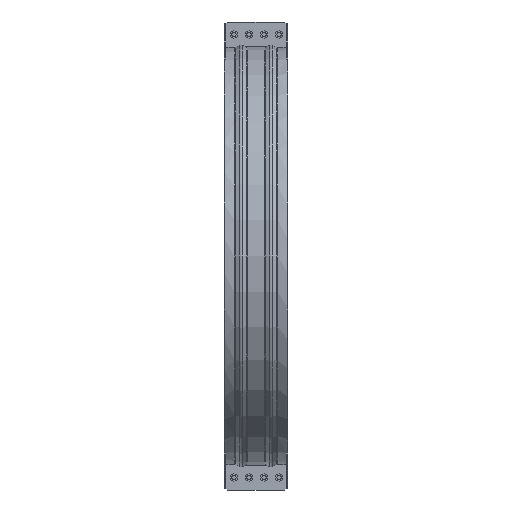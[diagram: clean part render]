
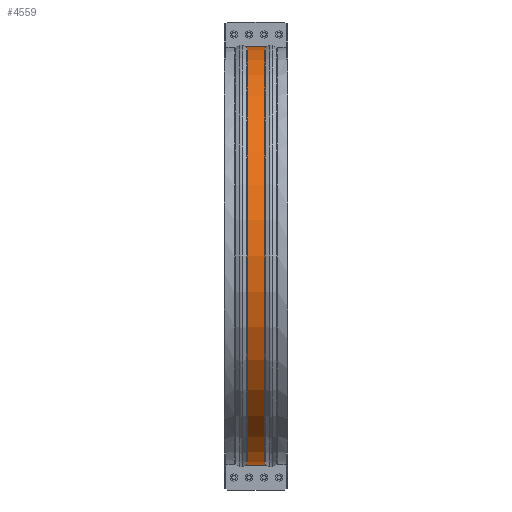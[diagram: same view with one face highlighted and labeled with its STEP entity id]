
A CAD part, front view. The second image highlights one B-rep face of the part: STEP entity #4559.
In plain terms, the highlighted cylindrical face has radius 1235.38 mm (diameter 2470.75 mm), a partial arc.
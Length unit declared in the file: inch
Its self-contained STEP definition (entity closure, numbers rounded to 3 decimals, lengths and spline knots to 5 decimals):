
#414=FACE_OUTER_BOUND('',#671,.T.);
#671=EDGE_LOOP('',(#3465,#3466,#3467,#3468));
#1036=LINE('',#7017,#1485);
#1044=LINE('',#7149,#1493);
#1485=VECTOR('',#5630,0.3937);
#1493=VECTOR('',#5690,0.3937);
#1771=CIRCLE('',#4875,48.63689);
#1773=CIRCLE('',#4879,48.63689);
#2060=VERTEX_POINT('',#7009);
#2061=VERTEX_POINT('',#7016);
#2076=VERTEX_POINT('',#7134);
#2078=VERTEX_POINT('',#7147);
#2565=EDGE_CURVE('',#2061,#2060,#1036,.T.);
#2590=EDGE_CURVE('',#2076,#2061,#1771,.T.);
#2594=EDGE_CURVE('',#2078,#2060,#1773,.T.);
#2595=EDGE_CURVE('',#2078,#2076,#1044,.T.);
#3465=ORIENTED_EDGE('',*,*,#2565,.T.);
#3466=ORIENTED_EDGE('',*,*,#2594,.F.);
#3467=ORIENTED_EDGE('',*,*,#2595,.T.);
#3468=ORIENTED_EDGE('',*,*,#2590,.T.);
#4182=CYLINDRICAL_SURFACE('',#4878,48.63689);
#4559=ADVANCED_FACE('',(#414),#4182,.T.);
#4875=AXIS2_PLACEMENT_3D('',#7135,#5679,#5680);
#4878=AXIS2_PLACEMENT_3D('',#7146,#5686,#5687);
#4879=AXIS2_PLACEMENT_3D('',#7148,#5688,#5689);
#5630=DIRECTION('',(1.,0.,0.));
#5679=DIRECTION('center_axis',(1.,0.,0.));
#5680=DIRECTION('ref_axis',(0.,0.,-1.));
#5686=DIRECTION('center_axis',(1.,0.,0.));
#5687=DIRECTION('ref_axis',(0.,-1.,0.));
#5688=DIRECTION('center_axis',(1.,0.,0.));
#5689=DIRECTION('ref_axis',(0.,0.,-1.));
#5690=DIRECTION('',(-1.,0.,0.));
#7009=CARTESIAN_POINT('',(2.00101,-0.375,-48.63544));
#7016=CARTESIAN_POINT('',(-2.00101,-0.375,-48.63544));
#7017=CARTESIAN_POINT('',(0.,-0.375,-48.63544));
#7134=CARTESIAN_POINT('',(-2.00101,-0.375,48.63544));
#7135=CARTESIAN_POINT('Origin',(-2.00101,0.,0.));
#7146=CARTESIAN_POINT('Origin',(0.,0.,0.));
#7147=CARTESIAN_POINT('',(2.00101,-0.375,48.63544));
#7148=CARTESIAN_POINT('Origin',(2.00101,0.,0.));
#7149=CARTESIAN_POINT('',(0.,-0.375,48.63544));
